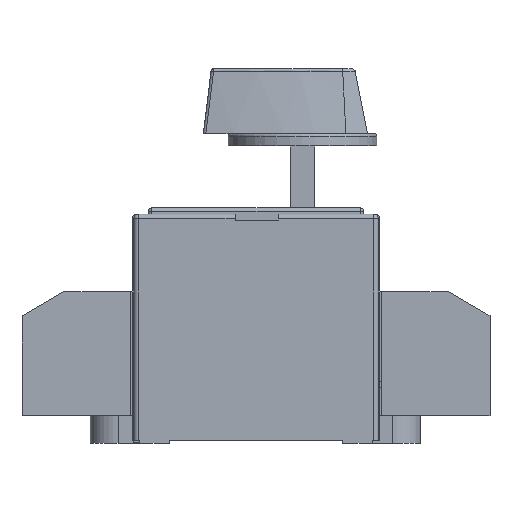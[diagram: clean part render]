
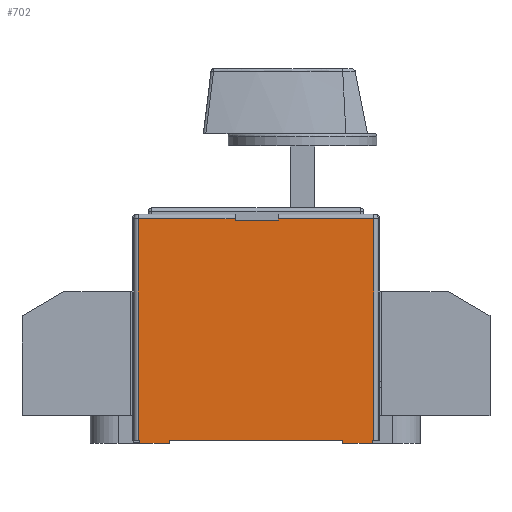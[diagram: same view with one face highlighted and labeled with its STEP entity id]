
A CAD part, left-side view. The second image highlights one B-rep face of the part: STEP entity #702.
In plain terms, the highlighted planar face has unit normal (-1, 0, 0).
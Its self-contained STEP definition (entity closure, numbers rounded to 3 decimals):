
#702=ADVANCED_FACE('',(#1474),#1035,.F.);
#1035=PLANE('',#9733);
#1474=FACE_OUTER_BOUND('',#2008,.T.);
#2008=EDGE_LOOP('',(#6362,#6363,#6364,#6365,#6366,#6367,#6368,#6369,#6370,
#6371,#6372,#6373,#6374,#6375,#6376,#6377));
#2613=LINE('',#13713,#3598);
#2662=LINE('',#13830,#3647);
#2664=LINE('',#13836,#3649);
#2743=LINE('',#14185,#3728);
#2760=LINE('',#14272,#3745);
#2804=LINE('',#14370,#3789);
#2809=LINE('',#14382,#3794);
#2811=LINE('',#14385,#3796);
#2817=LINE('',#14398,#3802);
#2983=LINE('',#14734,#3968);
#2989=LINE('',#14745,#3974);
#2990=LINE('',#14749,#3975);
#2991=LINE('',#14751,#3976);
#2992=LINE('',#14753,#3977);
#2993=LINE('',#14754,#3978);
#2994=LINE('',#14755,#3979);
#3598=VECTOR('',#11101,1.);
#3647=VECTOR('',#11186,1.);
#3649=VECTOR('',#11192,1.);
#3728=VECTOR('',#11509,1.);
#3745=VECTOR('',#11626,1.);
#3789=VECTOR('',#11724,1.);
#3794=VECTOR('',#11731,1.);
#3796=VECTOR('',#11735,1.);
#3802=VECTOR('',#11743,1.);
#3968=VECTOR('',#12041,1.);
#3974=VECTOR('',#12053,1.);
#3975=VECTOR('',#12058,1.);
#3976=VECTOR('',#12059,1.);
#3977=VECTOR('',#12060,1.);
#3978=VECTOR('',#12061,1.);
#3979=VECTOR('',#12062,1.);
#6362=ORIENTED_EDGE('',*,*,#8906,.F.);
#6363=ORIENTED_EDGE('',*,*,#8657,.T.);
#6364=ORIENTED_EDGE('',*,*,#8459,.T.);
#6365=ORIENTED_EDGE('',*,*,#8403,.F.);
#6366=ORIENTED_EDGE('',*,*,#8462,.T.);
#6367=ORIENTED_EDGE('',*,*,#8614,.T.);
#6368=ORIENTED_EDGE('',*,*,#8908,.T.);
#6369=ORIENTED_EDGE('',*,*,#8909,.T.);
#6370=ORIENTED_EDGE('',*,*,#8910,.F.);
#6371=ORIENTED_EDGE('',*,*,#8707,.F.);
#6372=ORIENTED_EDGE('',*,*,#8712,.T.);
#6373=ORIENTED_EDGE('',*,*,#8911,.T.);
#6374=ORIENTED_EDGE('',*,*,#8720,.F.);
#6375=ORIENTED_EDGE('',*,*,#8714,.F.);
#6376=ORIENTED_EDGE('',*,*,#8900,.T.);
#6377=ORIENTED_EDGE('',*,*,#8912,.T.);
#7381=VERTEX_POINT('',#13712);
#7382=VERTEX_POINT('',#13714);
#7428=VERTEX_POINT('',#13831);
#7430=VERTEX_POINT('',#13837);
#7537=VERTEX_POINT('',#14180);
#7538=VERTEX_POINT('',#14184);
#7586=VERTEX_POINT('',#14371);
#7587=VERTEX_POINT('',#14372);
#7591=VERTEX_POINT('',#14381);
#7592=VERTEX_POINT('',#14386);
#7593=VERTEX_POINT('',#14387);
#7596=VERTEX_POINT('',#14395);
#7701=VERTEX_POINT('',#14733);
#7704=VERTEX_POINT('',#14746);
#7705=VERTEX_POINT('',#14750);
#7706=VERTEX_POINT('',#14752);
#8403=EDGE_CURVE('',#7381,#7382,#2613,.T.);
#8459=EDGE_CURVE('',#7428,#7382,#2662,.T.);
#8462=EDGE_CURVE('',#7381,#7430,#2664,.T.);
#8614=EDGE_CURVE('',#7430,#7538,#2743,.T.);
#8657=EDGE_CURVE('',#7537,#7428,#2760,.T.);
#8707=EDGE_CURVE('',#7586,#7587,#2804,.T.);
#8712=EDGE_CURVE('',#7586,#7591,#2809,.T.);
#8714=EDGE_CURVE('',#7592,#7593,#2811,.T.);
#8720=EDGE_CURVE('',#7593,#7596,#2817,.T.);
#8900=EDGE_CURVE('',#7592,#7701,#2983,.T.);
#8906=EDGE_CURVE('',#7537,#7704,#2989,.T.);
#8908=EDGE_CURVE('',#7538,#7705,#2990,.T.);
#8909=EDGE_CURVE('',#7705,#7706,#2991,.T.);
#8910=EDGE_CURVE('',#7587,#7706,#2992,.T.);
#8911=EDGE_CURVE('',#7591,#7596,#2993,.T.);
#8912=EDGE_CURVE('',#7701,#7704,#2994,.T.);
#9733=AXIS2_PLACEMENT_3D('',#14756,#12063,#12064);
#11101=DIRECTION('',(0.,-1.,0.));
#11186=DIRECTION('',(0.,0.,-1.));
#11192=DIRECTION('',(0.,0.,1.));
#11509=DIRECTION('',(0.,1.,0.));
#11626=DIRECTION('',(0.,1.,0.));
#11724=DIRECTION('',(0.,1.,0.));
#11731=DIRECTION('',(0.,0.,1.));
#11735=DIRECTION('',(0.,1.,0.));
#11743=DIRECTION('',(0.,0.,1.));
#12041=DIRECTION('',(0.,0.,1.));
#12053=DIRECTION('',(0.,0.,-1.));
#12058=DIRECTION('',(0.,0.,-1.));
#12059=DIRECTION('',(0.,-1.,0.));
#12060=DIRECTION('',(0.,0.,1.));
#12061=DIRECTION('',(0.,-1.,0.));
#12062=DIRECTION('',(0.,-1.,0.));
#12063=DIRECTION('',(1.,0.,0.));
#12064=DIRECTION('',(0.,0.,-1.));
#13712=CARTESIAN_POINT('',(-69.,-17.985,67.));
#13713=CARTESIAN_POINT('',(-69.,12.765,67.));
#13714=CARTESIAN_POINT('',(-69.,-31.985,67.));
#13830=CARTESIAN_POINT('',(-69.,-31.985,69.1));
#13831=CARTESIAN_POINT('',(-69.,-31.985,67.6));
#13836=CARTESIAN_POINT('',(-69.,-17.985,69.1));
#13837=CARTESIAN_POINT('',(-69.,-17.985,67.6));
#14180=CARTESIAN_POINT('',(-69.,-62.735,67.6));
#14184=CARTESIAN_POINT('',(-69.,13.265,67.6));
#14185=CARTESIAN_POINT('',(-69.,13.265,67.6));
#14272=CARTESIAN_POINT('',(-69.,13.265,67.6));
#14370=CARTESIAN_POINT('',(-69.,3.265,-4.9));
#14371=CARTESIAN_POINT('',(-69.,3.265,-4.9));
#14372=CARTESIAN_POINT('',(-69.,12.765,-4.9));
#14381=CARTESIAN_POINT('',(-69.,3.265,-3.9));
#14382=CARTESIAN_POINT('',(-69.,3.265,-5.9));
#14385=CARTESIAN_POINT('',(-69.,-62.235,-4.9));
#14386=CARTESIAN_POINT('',(-69.,-62.235,-4.9));
#14387=CARTESIAN_POINT('',(-69.,-52.735,-4.9));
#14395=CARTESIAN_POINT('',(-69.,-52.735,-3.9));
#14398=CARTESIAN_POINT('',(-69.,-52.735,-5.9));
#14733=CARTESIAN_POINT('',(-69.,-62.235,-3.9));
#14734=CARTESIAN_POINT('',(-69.,-62.235,-5.9));
#14745=CARTESIAN_POINT('',(-69.,-62.735,69.1));
#14746=CARTESIAN_POINT('',(-69.,-62.735,-3.9));
#14749=CARTESIAN_POINT('',(-69.,13.265,69.1));
#14750=CARTESIAN_POINT('',(-69.,13.265,-3.9));
#14751=CARTESIAN_POINT('',(-69.,-62.235,-3.9));
#14752=CARTESIAN_POINT('',(-69.,12.765,-3.9));
#14753=CARTESIAN_POINT('',(-69.,12.765,-5.9));
#14754=CARTESIAN_POINT('',(-69.,-62.235,-3.9));
#14755=CARTESIAN_POINT('',(-69.,-62.235,-3.9));
#14756=CARTESIAN_POINT('',(-69.,-62.235,69.1));
